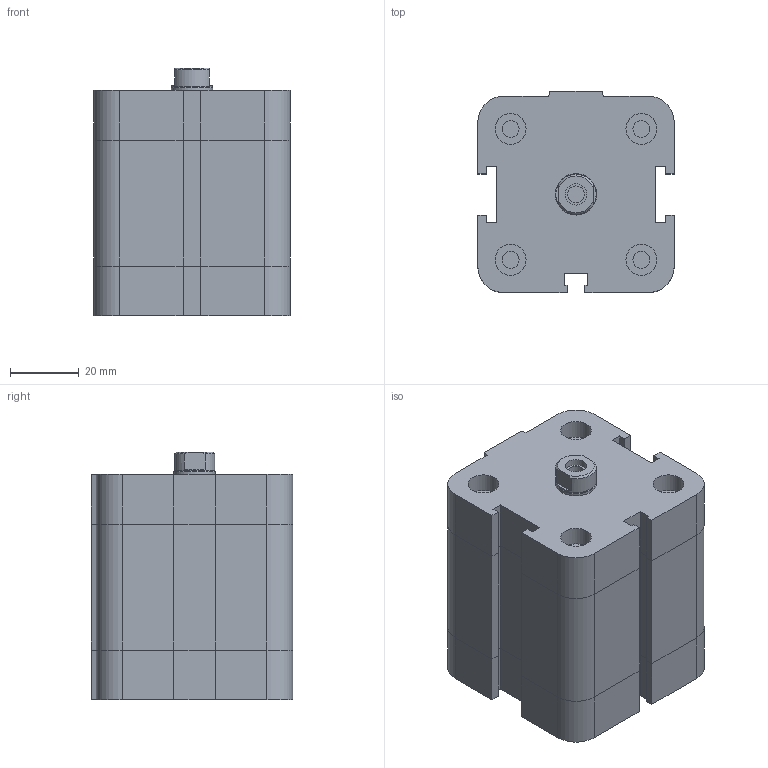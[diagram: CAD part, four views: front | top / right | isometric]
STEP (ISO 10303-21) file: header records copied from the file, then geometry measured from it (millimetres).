
FILE_DESCRIPTION((''),'2;1');
FILE_NAME('I:\Area Tecnica\Disegni\VARIE-3D\Componenti\EUROPE\15##_###_####_01_#\1561_40_0020_01_1.stp','2008-12-19T15:24:23',('rivolro1'),(''),'Autodesk Inventor 2009','Autodesk Inventor 2009','');
FILE_SCHEMA(('AUTOMOTIVE_DESIGN { 1 0 10303 214 1 1 1 1 }'));
Length unit declared in the file: millimetre
Products named in the file (3): 1561_40_0020_01_1; 1561_40_0020_01_1_C; 1561_40_0020_01_1_S
Assembly tree (2 placements, depth 2):
  1561_40_0020_01_1
    1561_40_0020_01_1_C
    1561_40_0020_01_1_S
Bounding box: 57 x 58.5 x 72 mm (x, y, z)
Volume: 193525.5 mm3; surface area: 30595.6 mm2
Topology: 2 solids, 2 shells, 163 faces, 349 edges, 211 vertices
Faces by surface type: plane 112, bspline 26, cylinder 22, cone 3
Full cylindrical faces by diameter (mm): 4.917 x4, 9 x4, 11.7 x1, 12 x1
Entity records: 4455 total; most frequent: CARTESIAN_POINT 952, DIRECTION 662, ORIENTED_EDGE 630, EDGE_CURVE 315, VECTOR 244, LINE 244, AXIS2_PLACEMENT_3D 209, EDGE_LOOP 208
